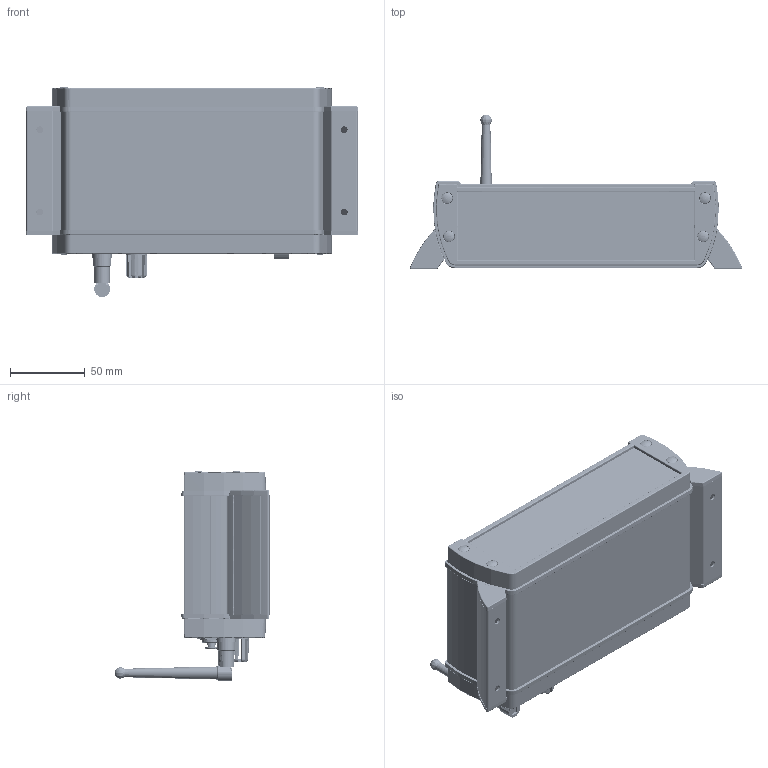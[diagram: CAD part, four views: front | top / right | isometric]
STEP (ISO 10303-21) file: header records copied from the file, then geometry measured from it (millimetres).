
FILE_DESCRIPTION((''),'2;1');
FILE_NAME('14075953_DATENBLATT_W_03784093_ASM','2015-06-23T',('oettinwe'),(''),'PRO/ENGINEER BY PARAMETRIC TECHNOLOGY CORPORATION, 2013230','PRO/ENGINEER BY PARAMETRIC TECHNOLOGY CORPORATION, 2013230','');
FILE_SCHEMA(('AUTOMOTIVE_DESIGN { 1 0 10303 214 1 1 1 1 }'));
Products named in the file (39): CT1611________________02988829; CT1612________________02988828; 14075740______________03109476; SHR_Z_KT_30X18_WN_515_02973714; AS_1850_DI_1009696_3D_02973715; SCHRAUBABDECKUNGEN_10_02973716; ASD_1850_HINTEN_W_____03032617_ASM; CT1669________________03032618_ASM; ASD_1850_1009688_3D___02973713; ASD_1850______________02973712_ASM; CT1667________________03032399_ASM; CT1598________________02984233; CT1603________________02987023; CT1610________________02988628; 14075773______________03109761; 153157_QSS_4__________03051282; 2007838SW______________1092013; 153275_QSLF_1_4_6_B___03051435; CT1712________________03056190; _09_0416_00_05_________983450; CT1647________________03021676; CT1558________________02961411; CT1640________________03021272; CT1641________________03021321; CT1643________________03021369; CT1644________________03021380; CT1662________________03031354; CT1700________________03049953; CT1645________________03021393_ASM; CT1699________________03049913; CT1750________________03080429; 0033375; 1009844_3D____________03784037; 1009845_3D____________03784038; 1009853_3D____________03784040; 94742100_AS_0050-0100_03784034_ASM; CT1613________________02988832; CT2375________________03784033_ASM; 14075953_DATENBLATT_W_03784093_ASM
Assembly tree (69 placements, depth 4):
  14075953_DATENBLATT_W_03784093_ASM
    CT1611________________02988829
    CT1612________________02988828
    CT1669________________03032618_ASM
      ASD_1850_HINTEN_W_____03032617_ASM
        14075740______________03109476
        SHR_Z_KT_30X18_WN_515_02973714  x4
        AS_1850_DI_1009696_3D_02973715
        SCHRAUBABDECKUNGEN_10_02973716  x4
    CT1667________________03032399_ASM
      ASD_1850______________02973712_ASM
        ASD_1850_1009688_3D___02973713
        SHR_Z_KT_30X18_WN_515_02973714  x4
        AS_1850_DI_1009696_3D_02973715
        SCHRAUBABDECKUNGEN_10_02973716  x4
    CT1598________________02984233
    CT1603________________02987023
    CT1610________________02988628
    14075773______________03109761
    153157_QSS_4__________03051282
    2007838SW______________1092013
    153275_QSLF_1_4_6_B___03051435
    CT1712________________03056190
    _09_0416_00_05_________983450  x2
    CT1647________________03021676  x4
    CT1645________________03021393_ASM
      CT1558________________02961411
      CT1640________________03021272  x3
      CT1641________________03021321  x3
      CT1643________________03021369
      CT1644________________03021380  x2
      CT1662________________03031354
      CT1700________________03049953
    CT1699________________03049913
    CT1750________________03080429
    0033375  x4
    CT2375________________03784033_ASM
      94742100_AS_0050-0100_03784034_ASM
        1009844_3D____________03784037  x2
        1009845_3D____________03784038  x2
        1009853_3D____________03784040  x2
      CT1613________________02988832  x2
Bounding box: 221.45 x 103.41 x 140 mm (x, y, z)
Volume: 337929.5 mm3; surface area: 330220.3 mm2
Topology: 61 solids, 93 shells, 6711 faces, 18511 edges, 12040 vertices
Faces by surface type: bspline 6711
Entity records: 313963 total; most frequent: CARTESIAN_POINT 180920, ORIENTED_EDGE 20206, DIRECTION 11338, PRESENTATION_STYLE_ASSIGNMENT 11057, STYLED_ITEM 10738, CURVE_STYLE 10194, EDGE_CURVE 10194, VERTEX_POINT 6658
